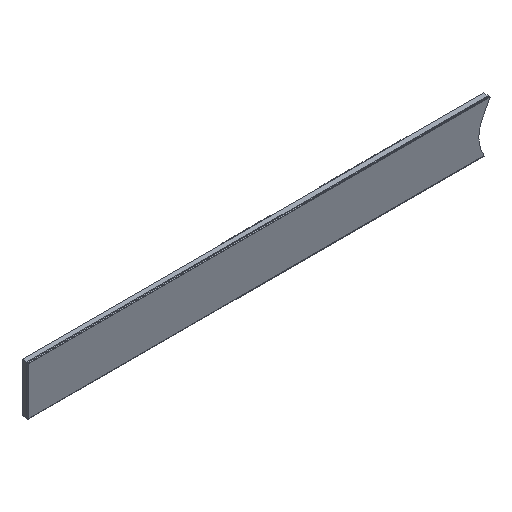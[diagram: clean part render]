
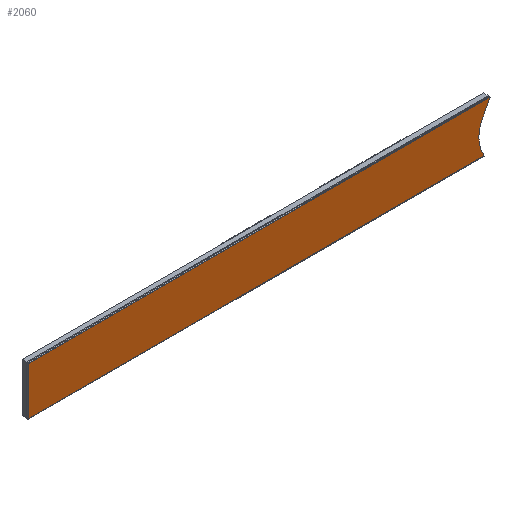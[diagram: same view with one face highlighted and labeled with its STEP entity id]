
A CAD part, isometric view. The second image highlights one B-rep face of the part: STEP entity #2060.
In plain terms, the highlighted planar face has unit normal (0, -1, 0).
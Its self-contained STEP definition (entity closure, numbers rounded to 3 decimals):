
#114=B_SPLINE_CURVE_WITH_KNOTS('',3,(#2988,#2989,#2990,#2991,#2992),
 .UNSPECIFIED.,.F.,.F.,(4,1,4),(0.15,0.201,0.263),
 .UNSPECIFIED.);
#273=FACE_OUTER_BOUND('',#393,.T.);
#393=EDGE_LOOP('',(#1486,#1487,#1488,#1489));
#543=LINE('',#2981,#791);
#546=LINE('',#2987,#794);
#547=LINE('',#2993,#795);
#791=VECTOR('',#2402,1000.);
#794=VECTOR('',#2407,1000.);
#795=VECTOR('',#2408,1000.);
#1037=VERTEX_POINT('',#2979);
#1038=VERTEX_POINT('',#2980);
#1039=VERTEX_POINT('',#2985);
#1040=VERTEX_POINT('',#2986);
#1215=EDGE_CURVE('',#1037,#1038,#543,.T.);
#1218=EDGE_CURVE('',#1039,#1040,#546,.T.);
#1219=EDGE_CURVE('',#1039,#1037,#114,.T.);
#1220=EDGE_CURVE('',#1038,#1040,#547,.T.);
#1486=ORIENTED_EDGE('',*,*,#1218,.F.);
#1487=ORIENTED_EDGE('',*,*,#1219,.T.);
#1488=ORIENTED_EDGE('',*,*,#1215,.T.);
#1489=ORIENTED_EDGE('',*,*,#1220,.T.);
#1944=PLANE('',#2214);
#2060=ADVANCED_FACE('',(#273),#1944,.F.);
#2214=AXIS2_PLACEMENT_3D('',#2984,#2405,#2406);
#2402=DIRECTION('',(-1.,0.,0.));
#2405=DIRECTION('center_axis',(0.,1.,0.));
#2406=DIRECTION('ref_axis',(0.,0.,1.));
#2407=DIRECTION('',(-1.,0.,0.));
#2408=DIRECTION('',(0.,0.,-1.));
#2979=CARTESIAN_POINT('',(94.442,-0.1,-0.1));
#2980=CARTESIAN_POINT('',(0.05,-0.1,-0.1));
#2981=CARTESIAN_POINT('',(100.,-0.1,-0.1));
#2984=CARTESIAN_POINT('Origin',(100.,-0.1,-0.1));
#2985=CARTESIAN_POINT('',(93.253,-0.1,-9.9));
#2986=CARTESIAN_POINT('',(0.05,-0.1,-9.9));
#2987=CARTESIAN_POINT('',(100.,-0.1,-9.9));
#2988=CARTESIAN_POINT('Ctrl Pts',(93.253,-0.1,-9.9));
#2989=CARTESIAN_POINT('Ctrl Pts',(92.426,-0.1,-8.393));
#2990=CARTESIAN_POINT('Ctrl Pts',(91.518,-0.1,-4.901));
#2991=CARTESIAN_POINT('Ctrl Pts',(93.548,-0.1,-1.902));
#2992=CARTESIAN_POINT('Ctrl Pts',(94.442,-0.1,-0.1));
#2993=CARTESIAN_POINT('',(0.05,-0.1,-9.9));
